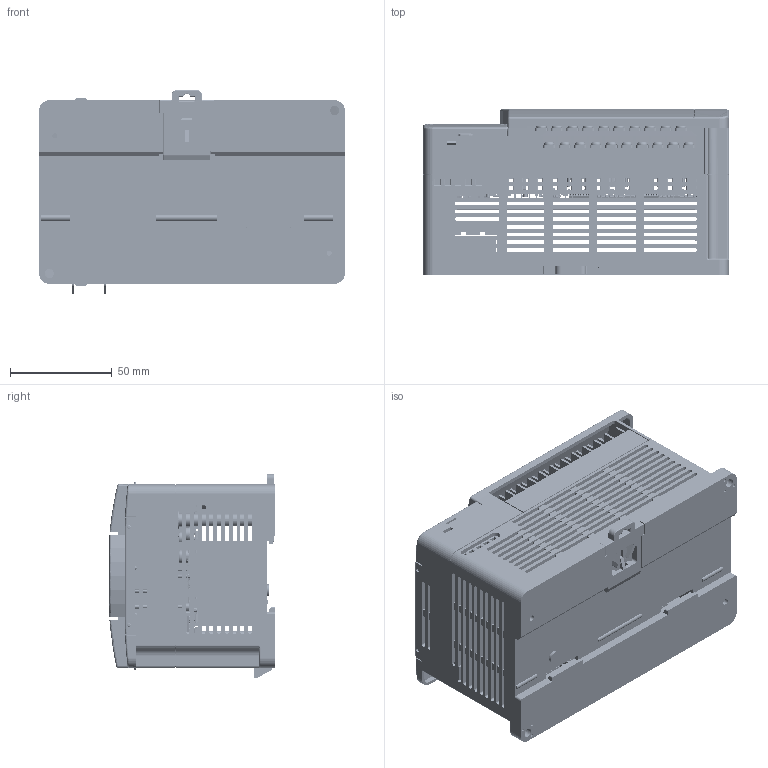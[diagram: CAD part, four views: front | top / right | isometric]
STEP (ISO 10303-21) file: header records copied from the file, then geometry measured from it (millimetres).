
FILE_DESCRIPTION((''),'2;1');
FILE_NAME('IVC1-1614MAR_ASM_ASM','2022-07-04T16:59:39',('Administrator'),(''),'CREO PARAMETRIC BY PTC INC, 2019080','CREO PARAMETRIC BY PTC INC, 2019080','');
FILE_SCHEMA(('CONFIG_CONTROL_DESIGN'));
Products named in the file (62): 80740054_2; 80740054SY1_ASM_1_ASM; 80880052_1; 40810011_ASM_1_ASM; 80740055_4; 80740055SY1_ASM_3_ASM; 80880060_2; 80880061_2; 80880053_1; 80880055_2; 80880050_2; 86400009_3; 86400008_3; 86400010_3; 40810012_ASM_3_ASM; 1614MAR_1; E-SR0603_1; E-SC0603_1; E-SOP4-100-173_1; E-SD0805_1; E-SC1210_1; E-SC1206A_1; E-SC0805_1; E-SR1206_1; E-SR1210_1; E-DSW5-H_1; E-PSW6-80T_1; E-SR0805_1; E-SCD6_3X5_7_1; E-SOP5-50-173_1; E-SR2010_1; E-RLY7-100-140_1; E-SOT23-1A_1; E-SF3518_1; E-SL1307_1; E-SOT23_1; E-SOT-DPAK_1; E-X2-80-W-B_1; E-SD2216_1; E-SOP14-26-170_1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
Assembly tree (508 placements, depth 5):
  IVC1-1614MAR_ASM_ASM
    IVC1-1614MAR_ASM_7_ASM
      40810011_ASM_1_ASM
        80740054SY1_ASM_1_ASM
          80740054_2
        80880052_1
      40810012_ASM_3_ASM
        80740055SY1_ASM_3_ASM
          80740055_4
        80880060_2
        80880061_2
        80880053_1
        80880055_2
        80880050_2
        86400009_3
        86400008_3  x2
        86400010_3  x2
      1614MAR_ASM_2_ASM
        1614MAR_1
        E-SR0603_1  x179
        E-SC0603_1  x117
        E-SOP4-100-173_1  x14
        E-SD0805_1  x33
        E-SC1210_1
        E-SC1206A_1  x4
        E-SC0805_1  x8
        E-SR1206_1  x35
        E-SR1210_1
        E-DSW5-H_1
        E-PSW6-80T_1
        E-SR0805_1  x8
        E-SCD6_3X5_7_1  x2
        E-SOP5-50-173_1  x2
        E-SR2010_1  x4
        E-RLY7-100-140_1  x14
        E-SOT23-1A_1  x2
        E-SF3518_1  x4
        E-SL1307_1  x2
        E-SOT23_1  x10
        E-SOT-DPAK_1
        E-X2-80-W-B_1
        E-SD2216_1  x6
        E-SOP14-26-170_1  x5
        E-SX2-1205_1
        E-SP-SMD45_1  x5
        E-TB0210-300-365-TM_2  x2
        E-IDC14-OTM_1
        E-HEAD0108-TA_1
        E-SL0805A_1  x4
        E-HEAD0207-TB_1
        E-PS2-10PIN_1
        E-DIN0105-5_08MM-TM_1
        E-HEAD0102-1_5-T_1
        E-SP-SMD60_1  x3
        E-SOP8-50-157_1  x2
        E-SOP16-50-157_1  x2
        E-QFP100-050-1414L_1
        E-SOP8-50-157A_1  x3
        E-SOP20-26-173_1
        E-SOP16-26-180_1
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Bounding box: 150 x 81.3 x 100 mm (x, y, z)
Volume: 262705.3 mm3; surface area: 257438.6 mm2
Topology: 502 solids, 504 shells, 24504 faces, 64110 edges, 40249 vertices
Faces by surface type: plane 15806, cylinder 6514, sphere 1292, torus 554, cone 243, bspline 61, extrusion 28, revolution 6
Entity records: 284999 total; most frequent: CARTESIAN_POINT 58441, ORIENTED_EDGE 47478, DIRECTION 46737, EDGE_CURVE 23741, VECTOR 17557, LINE 17529, VERTEX_POINT 15550, AXIS2_PLACEMENT_3D 14587
